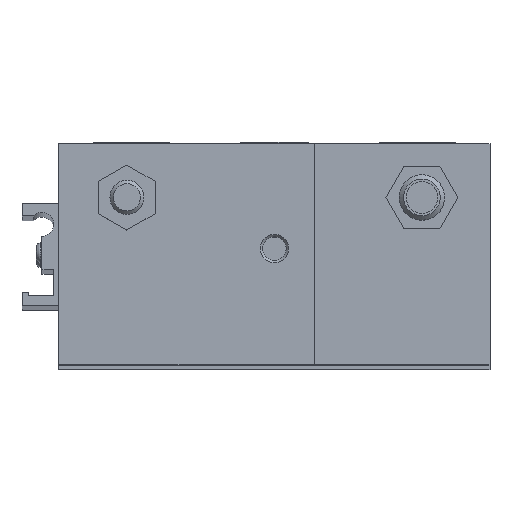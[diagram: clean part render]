
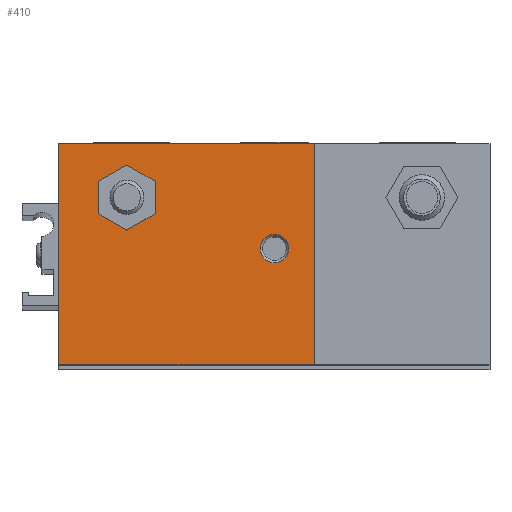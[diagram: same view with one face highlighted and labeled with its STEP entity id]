
A CAD part, top view. The second image highlights one B-rep face of the part: STEP entity #410.
In plain terms, the highlighted planar face has unit normal (0, 0, 1) as drawn and (0, 0, -1) by its records, which use the part's own axes.
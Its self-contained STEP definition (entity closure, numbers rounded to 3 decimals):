
#410 = ADVANCED_FACE( '', ( #964, #965, #966 ), #967, .F. );
#964 = FACE_BOUND( '', #1728, .T. );
#965 = FACE_BOUND( '', #1729, .T. );
#966 = FACE_OUTER_BOUND( '', #1730, .T. );
#967 = PLANE( '', #1731 );
#1728 = EDGE_LOOP( '', ( #2705, #2706, #2707, #2708, #2709, #2710 ) );
#1729 = EDGE_LOOP( '', ( #2711 ) );
#1730 = EDGE_LOOP( '', ( #2712, #2713, #2714, #2715 ) );
#1731 = AXIS2_PLACEMENT_3D( '', #2716, #2717, #2718 );
#2705 = ORIENTED_EDGE( '', *, *, #3956, .T. );
#2706 = ORIENTED_EDGE( '', *, *, #3957, .T. );
#2707 = ORIENTED_EDGE( '', *, *, #3958, .T. );
#2708 = ORIENTED_EDGE( '', *, *, #3733, .T. );
#2709 = ORIENTED_EDGE( '', *, *, #3959, .T. );
#2710 = ORIENTED_EDGE( '', *, *, #3960, .T. );
#2711 = ORIENTED_EDGE( '', *, *, #3770, .T. );
#2712 = ORIENTED_EDGE( '', *, *, #3961, .T. );
#2713 = ORIENTED_EDGE( '', *, *, #3962, .F. );
#2714 = ORIENTED_EDGE( '', *, *, #3963, .F. );
#2715 = ORIENTED_EDGE( '', *, *, #3964, .T. );
#2716 = CARTESIAN_POINT( '', ( 7., 39., -479.5 ) );
#2717 = DIRECTION( '', ( 0., 0., 1. ) );
#2718 = DIRECTION( '', ( 1., 0., 0. ) );
#3733 = EDGE_CURVE( '', #4279, #4280, #4281, .T. );
#3770 = EDGE_CURVE( '', #4345, #4345, #4346, .T. );
#3956 = EDGE_CURVE( '', #4648, #4649, #4650, .T. );
#3957 = EDGE_CURVE( '', #4649, #4651, #4652, .T. );
#3958 = EDGE_CURVE( '', #4651, #4279, #4653, .T. );
#3959 = EDGE_CURVE( '', #4280, #4654, #4655, .T. );
#3960 = EDGE_CURVE( '', #4654, #4648, #4656, .T. );
#3961 = EDGE_CURVE( '', #4657, #4658, #4659, .T. );
#3962 = EDGE_CURVE( '', #4660, #4658, #4661, .T. );
#3963 = EDGE_CURVE( '', #4662, #4660, #4663, .T. );
#3964 = EDGE_CURVE( '', #4662, #4657, #4664, .T. );
#4279 = VERTEX_POINT( '', #5087 );
#4280 = VERTEX_POINT( '', #5088 );
#4281 = LINE( '', #5089, #5090 );
#4345 = VERTEX_POINT( '', #5173 );
#4346 = CIRCLE( '', #5174, 2.5 );
#4648 = VERTEX_POINT( '', #5550 );
#4649 = VERTEX_POINT( '', #5551 );
#4650 = LINE( '', #5552, #5553 );
#4651 = VERTEX_POINT( '', #5554 );
#4652 = LINE( '', #5555, #5556 );
#4653 = LINE( '', #5557, #5558 );
#4654 = VERTEX_POINT( '', #5559 );
#4655 = LINE( '', #5560, #5561 );
#4656 = LINE( '', #5562, #5563 );
#4657 = VERTEX_POINT( '', #5564 );
#4658 = VERTEX_POINT( '', #5565 );
#4659 = LINE( '', #5566, #5567 );
#4660 = VERTEX_POINT( '', #5568 );
#4661 = LINE( '', #5569, #5570 );
#4662 = VERTEX_POINT( '', #5571 );
#4663 = LINE( '', #5572, #5573 );
#4664 = LINE( '', #5574, #5575 );
#5087 = CARTESIAN_POINT( '', ( -30.95, 6.642, -479.5 ) );
#5088 = CARTESIAN_POINT( '', ( -26., 3.784, -479.5 ) );
#5089 = CARTESIAN_POINT( '', ( -30.95, 6.642, -479.5 ) );
#5090 = VECTOR( '', #6074, 1000. );
#5173 = CARTESIAN_POINT( '', ( 2.5, 18.5, -479.5 ) );
#5174 = AXIS2_PLACEMENT_3D( '', #6121, #6122, #6123 );
#5550 = CARTESIAN_POINT( '', ( -21.05, 12.358, -479.5 ) );
#5551 = CARTESIAN_POINT( '', ( -26., 15.216, -479.5 ) );
#5552 = CARTESIAN_POINT( '', ( -21.05, 12.358, -479.5 ) );
#5553 = VECTOR( '', #6378, 1000. );
#5554 = CARTESIAN_POINT( '', ( -30.95, 12.358, -479.5 ) );
#5555 = CARTESIAN_POINT( '', ( -26., 15.216, -479.5 ) );
#5556 = VECTOR( '', #6379, 1000. );
#5557 = CARTESIAN_POINT( '', ( -30.95, 12.358, -479.5 ) );
#5558 = VECTOR( '', #6380, 1000. );
#5559 = CARTESIAN_POINT( '', ( -21.05, 6.642, -479.5 ) );
#5560 = CARTESIAN_POINT( '', ( -26., 3.784, -479.5 ) );
#5561 = VECTOR( '', #6381, 1000. );
#5562 = CARTESIAN_POINT( '', ( -21.05, 6.642, -479.5 ) );
#5563 = VECTOR( '', #6382, 1000. );
#5564 = CARTESIAN_POINT( '', ( 7., 0., -479.5 ) );
#5565 = CARTESIAN_POINT( '', ( -38., 0., -479.5 ) );
#5566 = CARTESIAN_POINT( '', ( 7., 0., -479.5 ) );
#5567 = VECTOR( '', #6383, 1000. );
#5568 = CARTESIAN_POINT( '', ( -38., 39., -479.5 ) );
#5569 = CARTESIAN_POINT( '', ( -38., 39., -479.5 ) );
#5570 = VECTOR( '', #6384, 1000. );
#5571 = CARTESIAN_POINT( '', ( 7., 39., -479.5 ) );
#5572 = CARTESIAN_POINT( '', ( 7., 39., -479.5 ) );
#5573 = VECTOR( '', #6385, 1000. );
#5574 = CARTESIAN_POINT( '', ( 7., 39., -479.5 ) );
#5575 = VECTOR( '', #6386, 1000. );
#6074 = DIRECTION( '', ( 0.866, -0.5, 0. ) );
#6121 = CARTESIAN_POINT( '', ( 0., 18.5, -479.5 ) );
#6122 = DIRECTION( '', ( 0., 0., 1. ) );
#6123 = DIRECTION( '', ( 1., 0., 0. ) );
#6378 = DIRECTION( '', ( -0.866, 0.5, 0. ) );
#6379 = DIRECTION( '', ( -0.866, -0.5, 0. ) );
#6380 = DIRECTION( '', ( 0., -1., 0. ) );
#6381 = DIRECTION( '', ( 0.866, 0.5, 0. ) );
#6382 = DIRECTION( '', ( 0., 1., 0. ) );
#6383 = DIRECTION( '', ( -1., 0., 0. ) );
#6384 = DIRECTION( '', ( 0., -1., 0. ) );
#6385 = DIRECTION( '', ( -1., 0., 0. ) );
#6386 = DIRECTION( '', ( 0., -1., 0. ) );
